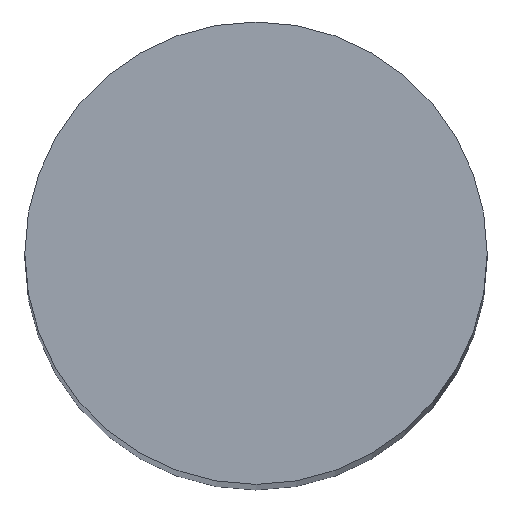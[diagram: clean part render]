
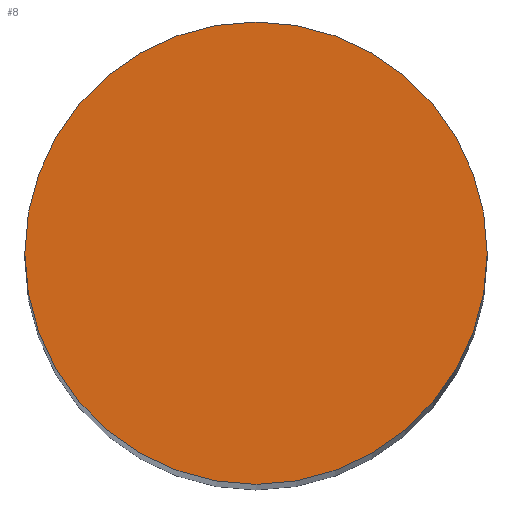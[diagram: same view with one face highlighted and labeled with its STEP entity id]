
A CAD part, top view. The second image highlights one B-rep face of the part: STEP entity #8.
In plain terms, the highlighted planar face has unit normal (0, 0, 1).
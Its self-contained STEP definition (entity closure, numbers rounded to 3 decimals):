
#8 = ADVANCED_FACE ( 'NONE', ( #123 ), #40, .T. ) ;
#11 = AXIS2_PLACEMENT_3D ( 'NONE', #71, #77, #47 ) ;
#13 = AXIS2_PLACEMENT_3D ( 'NONE', #69, #72, #73 ) ;
#19 = AXIS2_PLACEMENT_3D ( 'NONE', #41, #60, #59 ) ;
#25 = EDGE_CURVE ( 'NONE', #48, #86, #125, .T. ) ;
#29 = EDGE_CURVE ( 'NONE', #86, #48, #129, .T. ) ;
#40 = PLANE ( 'NONE',  #19 ) ;
#41 = CARTESIAN_POINT ( 'NONE',  ( 0., 0., 160. ) ) ;
#47 = DIRECTION ( 'NONE',  ( 1., 0., 0. ) ) ;
#48 = VERTEX_POINT ( 'NONE', #75 ) ;
#59 = DIRECTION ( 'NONE',  ( 1., 0., 0. ) ) ;
#60 = DIRECTION ( 'NONE',  ( 0., 0., 1. ) ) ;
#69 = CARTESIAN_POINT ( 'NONE',  ( 0., 0., 160. ) ) ;
#71 = CARTESIAN_POINT ( 'NONE',  ( 0., 0., 160. ) ) ;
#72 = DIRECTION ( 'NONE',  ( 0., 0., 1. ) ) ;
#73 = DIRECTION ( 'NONE',  ( 1., 0., 0. ) ) ;
#75 = CARTESIAN_POINT ( 'NONE',  ( 11.5, 0., 160. ) ) ;
#77 = DIRECTION ( 'NONE',  ( 0., 0., 1. ) ) ;
#79 = CARTESIAN_POINT ( 'NONE',  ( -11.5, 0., 160. ) ) ;
#86 = VERTEX_POINT ( 'NONE', #79 ) ;
#98 = ORIENTED_EDGE ( 'NONE', *, *, #29, .T. ) ;
#123 = FACE_OUTER_BOUND ( 'NONE', #135, .T. ) ;
#125 = CIRCLE ( 'NONE', #13, 11.5 ) ;
#129 = CIRCLE ( 'NONE', #11, 11.5 ) ;
#130 = ORIENTED_EDGE ( 'NONE', *, *, #25, .T. ) ;
#135 = EDGE_LOOP ( 'NONE', ( #98, #130 ) ) ;
